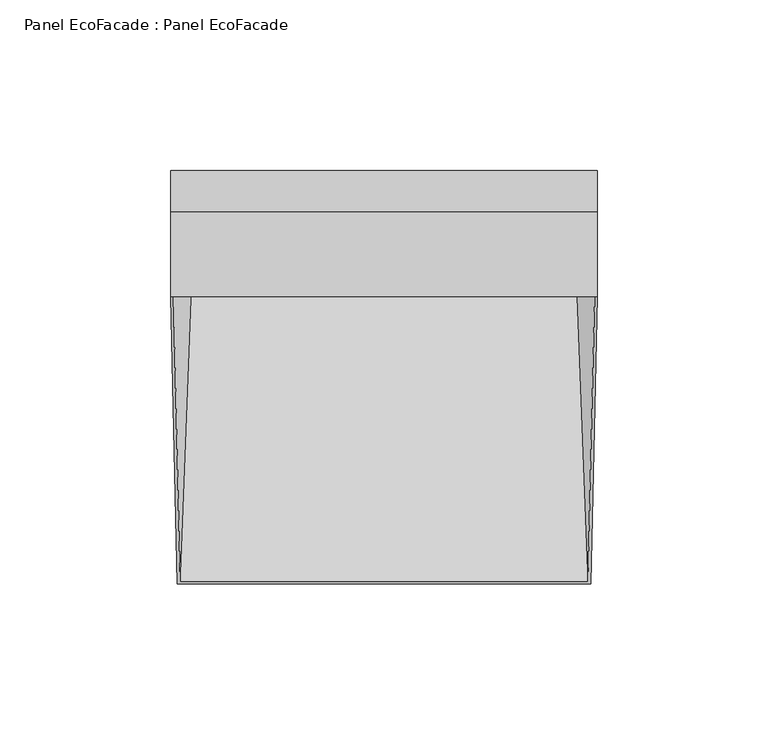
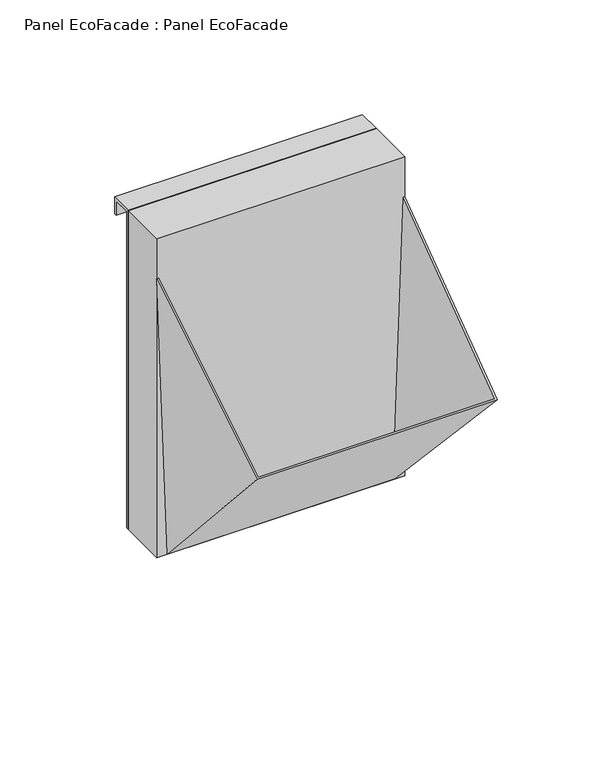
"""IFC4 building model written with IfcOpenShell, lengths in millimetres: plate geometry, Panel EcoFacade : Panel EcoFacade."""

from ifc_helpers import new_model, si_unit, frame, origin, origin_with_axes, place, context, project, spatial, polyline, outline, extrude, faceted_brep, source, transform, mapped, element, save


def panel_ecofacade_panel_ecofacade_ab77ffb4(model_context):
    return source(origin(), model_context, "Body", "SolidModel", [
        faceted_brep([(-61.6807851, 0.0, 148.5882353), (-56.5333838, 0.0, 1.185948), (56.5333838, 0.0, 1.185948), (61.6807851, 0.0, 148.5882353), (62.4812727, 0.0, 148.5882353), (57.2924572, 0.0, 0.0), (-57.2924572, 0.0, 0.0), (-62.4812727, 0.0, 148.5882353), (-60.5102218, -84.2, 92.1447224), (-59.725466, -83.5279628, 92.5952229), (60.5102218, -84.2, 92.1447224), (59.725466, -83.5279628, 92.5952229)], [[[0, 1, 2, 3, 4, 5, 6, 7]], [[6, 8, 7]], [[1, 0, 9]], [[0, 7, 8, 10, 4, 3, 11, 9]], [[5, 10, 8, 6]], [[1, 9, 11, 2]], [[4, 10, 5]], [[3, 2, 11]]]),
        extrude(outline(polyline([(26.5, 0.0), (25.0, 0.0), (25.0, 170.0), (37.0, 170.0), (37.0, 161.0), (35.5, 161.0), (35.5, 168.5), (26.5, 168.5), (26.5, 0.0)])), frame((-62.5, 0.0, 0.0), z_axis=(1.0, 0.0, 0.0), x_axis=(0.0, 1.0, 0.0)), (0.0, 0.0, 1.0), 125.0),
        extrude(outline(polyline([(62.5, 25.0), (62.5, 0.0), (-62.5, 0.0), (-62.5, 25.0), (62.5, 25.0)])), origin_with_axes(), (0.0, 0.0, 1.0), 170.0),
    ])


if __name__ == "__main__":
    model = new_model("IFC4")
    model_context = context("Model", 3, world=origin())
    ifc_project = project(units=[si_unit("LENGTHUNIT", "METRE", prefix="MILLI")], contexts=[model_context])
    site = spatial("IfcSite", under=ifc_project)
    building = spatial("IfcBuilding", under=site)
    placement = place(None, origin())
    panel_ecofacade_panel_ecofacade_shape = panel_ecofacade_panel_ecofacade_ab77ffb4(model_context)
    element("IfcPlate", 1, ObjectType="Panel EcoFacade : Panel EcoFacade", at=placement, inside=building, context=model_context, shape_type="MappedRepresentation", body=[
        mapped(panel_ecofacade_panel_ecofacade_shape, transform((0.0, 0.0, 0.0), x_axis=(1.0, 0.0, 0.0), y_axis=(0.0, 1.0, 0.0), z_axis=(0.0, 0.0, 1.0))),
    ])
    save(model, "model.ifc")
